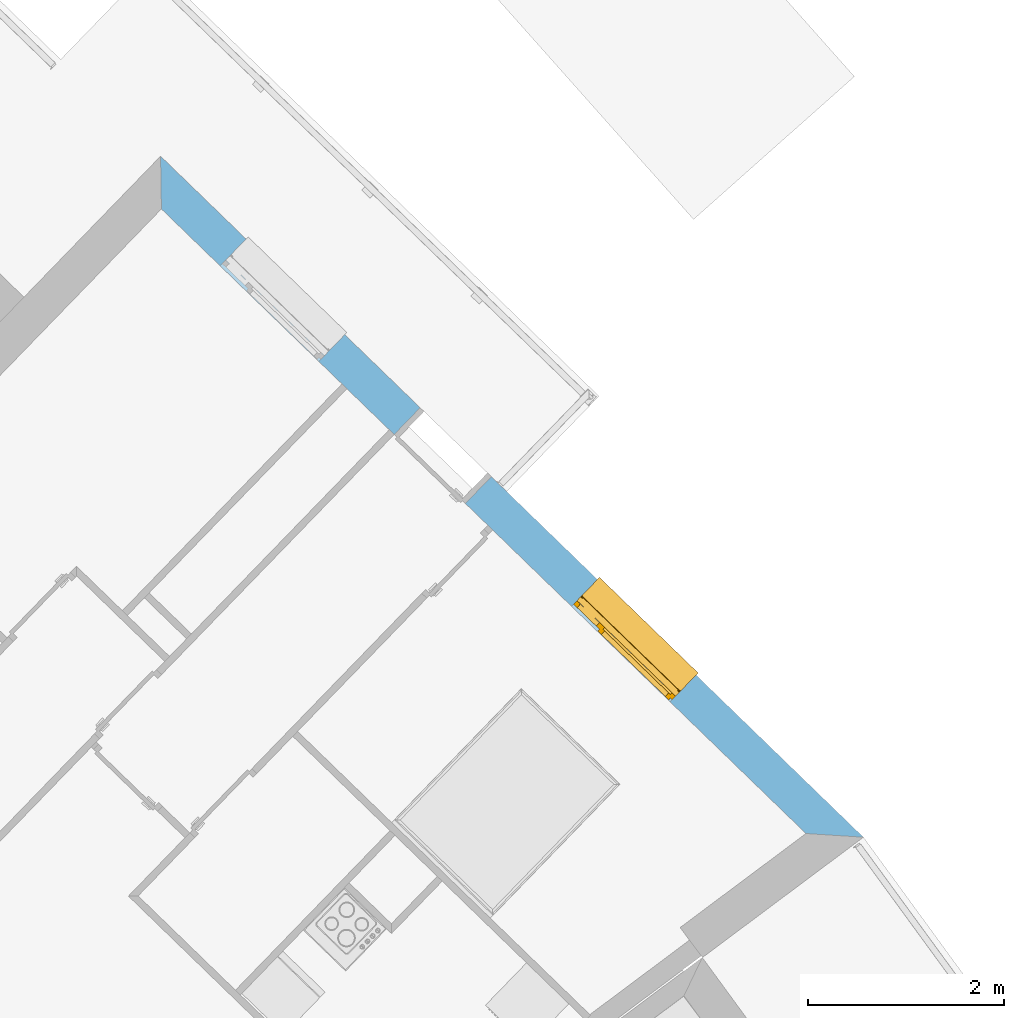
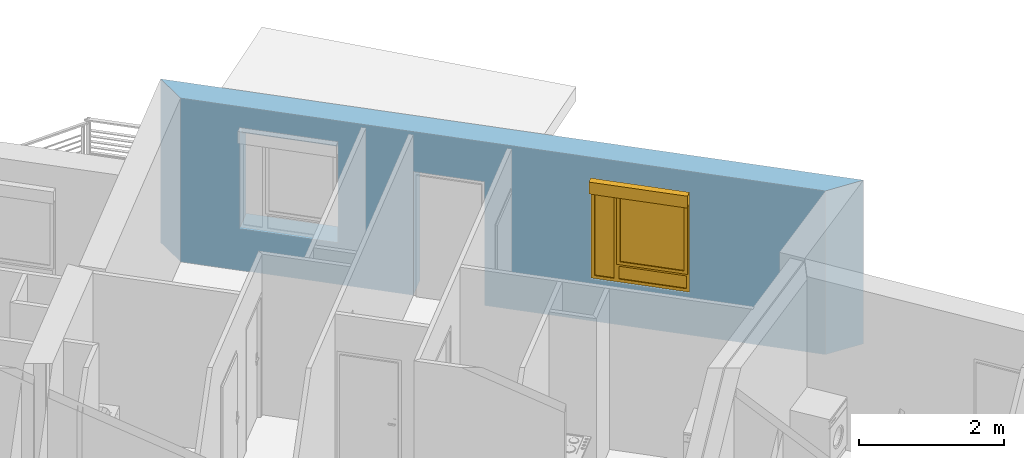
# One storey, part 22 of 121: 1 window, 3 openings, plus 1 element that does not belong to this part.
"""IFC2X3 building model written with IfcOpenShell, lengths in metres."""

from ifc_helpers import new_model, entity, si_unit, converted_unit, derived_unit, money_unit, direction, frame, origin_with_axes, origin_2d_with_axis, place, context, subcontext, project, spatial, polyline, rectangle, outline, extrude, open_shell, faceted_brep, surface_model, source, transform, mapped, material, layer, layer_set, layer_usage, type_object, element, fill, save


model = new_model("IFC2X3")

# Units and contexts
model_context = context("Model", 3, precision=1e-05, world=origin_with_axes(), true_north=direction((0.0, 1.0)))
body_context = subcontext(model_context, "Body", "Model", "MODEL_VIEW")
ifc_project = project(units=[si_unit("LENGTHUNIT", "METRE"), si_unit("AREAUNIT", "SQUARE_METRE"), si_unit("VOLUMEUNIT", "CUBIC_METRE"), converted_unit("PLANEANGLEUNIT", "DEGREE", entity("IfcPlaneAngleMeasure", 0.0174532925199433), si_unit("PLANEANGLEUNIT", "RADIAN"), dimensions=[0, 0, 0, 0, 0, 0, 0]), money_unit("CHF"), converted_unit("TIMEUNIT", "Year", entity("IfcTimeMeasure", 31557600.0), si_unit("TIMEUNIT", "SECOND"), dimensions=[0, 0, 1, 0, 0, 0, 0]), si_unit("MASSUNIT", "GRAM", prefix="KILO"), si_unit("THERMODYNAMICTEMPERATUREUNIT", "DEGREE_CELSIUS"), si_unit("LUMINOUSINTENSITYUNIT", "LUMEN"), si_unit("ENERGYUNIT", "JOULE", prefix="MEGA"), derived_unit("THERMALCONDUCTANCEUNIT", [(si_unit("POWERUNIT", "WATT"), 1), (si_unit("LENGTHUNIT", "METRE"), -1), (si_unit("THERMODYNAMICTEMPERATUREUNIT", "KELVIN"), -1)]), derived_unit("SPECIFICHEATCAPACITYUNIT", [(si_unit("ENERGYUNIT", "JOULE"), 1), (si_unit("MASSUNIT", "GRAM", prefix="KILO"), -1), (si_unit("THERMODYNAMICTEMPERATUREUNIT", "KELVIN"), -1)]), derived_unit("MASSDENSITYUNIT", [(si_unit("MASSUNIT", "GRAM", prefix="KILO"), 1), (si_unit("VOLUMEUNIT", "CUBIC_METRE"), -1)])], contexts=[model_context])

# Site, building, storey
site_placement = place(None, origin_with_axes())
site = spatial("IfcSite", under=ifc_project, at=site_placement, Name="Site", CompositionType="ELEMENT")
building_placement = place(site_placement, origin_with_axes())
building = spatial("IfcBuilding", under=site, at=building_placement, Name="Bâtiment", CompositionType="ELEMENT")
storey_placement = place(building_placement, frame((0.0, 0.0, 2.75), z_axis=(0.0, 0.0, 1.0), x_axis=(1.0, 0.0, 0.0)))
storey = spatial("IfcBuildingStorey", under=building, at=storey_placement, Name="Etage 1", CompositionType="ELEMENT", Elevation=2.75)

# Wall, openings, window
ifc_material_1 = material(Name="Parpaing 312445824")
ifc_layer_1 = layer(ifc_material_1, 0.22, ventilated="UNKNOWN")
ifc_material_2 = material(Name="Isolant styromousse 301821074")
ifc_layer_2 = layer(ifc_material_2, 0.16, ventilated="UNKNOWN")
ifc_layer_set = layer_set([ifc_layer_1, ifc_layer_2], Name="isol int 22+16 0836643197")
ifc_layer_usage = layer_usage(ifc_layer_set, "AXIS2", "NEGATIVE", 0.0)
wall_type = type_object("IfcWallType", Name="isol int 22+16 0836643197 380", PredefinedType="NOTDEFINED")
wall_placement = place(storey_placement, frame((9531.989867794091, -1061.560379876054, 57.7), z_axis=(0.0, 0.0, 1.0), x_axis=(0.7181763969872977, -0.6958610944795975, 0.0)))
wall = element("IfcWallStandardCase", 1, at=wall_placement, inside=storey, type_object=wall_type, material=ifc_layer_usage, Name="Mur-116", context=body_context, shape_type="SweptSolid", body=[
    extrude(outline(polyline([(0.3800000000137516, -0.3799999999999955), (9.524551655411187, -0.3800000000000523), (9.970619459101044, 0.0), (0.0, 0.0), (0.3800000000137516, -0.3799999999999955)])), origin_with_axes(), (0.0, 0.0, 1.0), 2.75),
])
opening_1_placement = place(wall_placement, frame((1.912836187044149, 0.0, 0.7000000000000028), z_axis=(0.0, 0.0, 1.0), x_axis=(1.0, 0.0, 0.0)))
element("IfcOpeningElement", 2, at=opening_1_placement, cuts=wall, Name="Fen-045", context=body_context, shape_type="Brep", body=[
    faceted_brep([(-0.7000000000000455, -0.2200000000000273, 1.5), (0.6999999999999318, -0.2200000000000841, 1.5), (0.6999999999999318, 4.983827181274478, 1.5), (-0.7000000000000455, 4.983827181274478, 1.5), (-0.7000000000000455, -0.2200000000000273, 1.700000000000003), (0.6999999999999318, -0.2200000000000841, 1.700000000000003), (0.6999999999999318, -0.3000000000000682, 1.5), (0.6999999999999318, -0.3000000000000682, 0.0), (0.6999999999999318, 4.983827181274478, 0.0), (-0.7000000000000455, 4.983827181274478, 0.0), (-0.7000000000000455, -0.3000000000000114, 1.5), (-0.7000000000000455, -0.3000000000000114, 0.0), (-0.7000000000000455, -0.4799999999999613, 1.5), (-0.7000000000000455, -0.4799999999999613, 1.700000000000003), (0.6999999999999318, -0.4800000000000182, 1.700000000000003), (0.6999999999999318, -0.4800000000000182, 1.5), (0.6999999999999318, -5.36382718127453, 1.5), (0.6999999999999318, -5.36382718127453, 0.0), (-0.7000000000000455, -5.363827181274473, 0.0), (-0.7000000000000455, -5.363827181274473, 1.5)], [[[0, 1, 2, 3]], [[1, 0, 4, 5]], [[1, 6, 7, 8, 2]], [[2, 8, 9, 3]], [[10, 0, 3, 9, 11]], [[0, 10, 12, 13, 4]], [[4, 13, 14, 5]], [[6, 1, 5, 14, 15]], [[6, 15, 16, 17, 7]], [[7, 11, 9, 8]], [[12, 10, 11, 18, 19]], [[12, 15, 14, 13]], [[15, 12, 19, 16]], [[19, 18, 17, 16]], [[11, 7, 17, 18]]]),
])
opening_2_placement = place(wall_placement, frame((4.187148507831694, 0.0, 0.0), z_axis=(0.0, 0.0, 1.0), x_axis=(1.0, 0.0, 0.0)))
element("IfcOpeningElement", 3, at=opening_2_placement, cuts=wall, Name="Por-297", context=body_context, shape_type="SweptSolid", body=[
    extrude(rectangle(XDim=1.01000001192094, YDim=2.079999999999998, at=origin_2d_with_axis()), frame((-5.960487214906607e-09, 0.3799999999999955, 1.039999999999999), z_axis=(0.0, -1.0, 0.0), x_axis=(-1.0, 0.0, 0.0)), (0.0, 0.0, 1.0), 0.76),
])
opening_3_placement = place(wall_placement, frame((6.896864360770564, 0.0, 0.7000000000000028), z_axis=(0.0, 0.0, 1.0), x_axis=(1.0, 0.0, 0.0)))
opening_3 = element("IfcOpeningElement", 4, at=opening_3_placement, cuts=wall, Name="Fen-045", context=body_context, shape_type="Brep", body=[
    faceted_brep([(-0.7000000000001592, -0.2200000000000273, 1.5), (0.6999999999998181, -0.2200000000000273, 1.5), (0.6999999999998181, 4.983827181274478, 1.5), (-0.7000000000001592, 4.983827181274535, 1.5), (-0.7000000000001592, -0.2200000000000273, 1.700000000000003), (0.6999999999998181, -0.2200000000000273, 1.700000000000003), (0.6999999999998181, -0.3000000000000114, 1.5), (0.6999999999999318, -0.3000000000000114, 0.0), (0.6999999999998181, 4.983827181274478, 0.0), (-0.7000000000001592, 4.983827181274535, 0.0), (-0.7000000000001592, -0.2999999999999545, 1.5), (-0.7000000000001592, -0.3000000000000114, 0.0), (-0.7000000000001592, -0.4799999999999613, 1.5), (-0.7000000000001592, -0.4799999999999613, 1.700000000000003), (0.6999999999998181, -0.4799999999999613, 1.700000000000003), (0.6999999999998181, -0.4799999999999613, 1.5), (0.6999999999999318, -5.36382718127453, 1.5), (0.6999999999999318, -5.36382718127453, 0.0), (-0.7000000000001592, -5.363827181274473, 0.0), (-0.7000000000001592, -5.363827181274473, 1.5)], [[[0, 1, 2, 3]], [[1, 0, 4, 5]], [[1, 6, 7, 8, 2]], [[2, 8, 9, 3]], [[10, 0, 3, 9, 11]], [[0, 10, 12, 13, 4]], [[4, 13, 14, 5]], [[6, 1, 5, 14, 15]], [[6, 15, 16, 17, 7]], [[7, 11, 9, 8]], [[12, 10, 11, 18, 19]], [[12, 15, 14, 13]], [[15, 12, 19, 16]], [[19, 18, 17, 16]], [[11, 7, 17, 18]]]),
])
window_style = type_object("IfcWindowStyle", Name="Fenêtre variable 27", ConstructionType="NOTDEFINED", OperationType="TRIPLE_PANEL_RIGHT", ParameterTakesPrecedence=False, Sizeable=False)
shared_shape = source(origin_with_axes(), body_context, "Body", "SurfaceModel", [
    surface_model("IfcShellBasedSurfaceModel", [(-0.7, -0.05100000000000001, 0.05), (-0.7, -0.05100000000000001, 0.04), (0.7, -0.05100000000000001, 0.04000000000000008), (0.7, -0.05100000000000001, 0.05000000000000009), (-0.7, -0.3799999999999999, 0.02899999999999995), (0.7, -0.3799999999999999, 0.02900000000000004), (-0.7, -0.3799999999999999, 0.008999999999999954), (0.7, -0.3799999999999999, 0.00900000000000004), (-0.7, -0.3699999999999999, 0.01899999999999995), (0.7, -0.3699999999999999, 0.01900000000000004)], [open_shell([[[0, 1, 2, 3]], [[1, 4, 5, 2]], [[4, 6, 7, 5]], [[6, 8, 9, 7]]])]),
    faceted_brep([(-0.7, -0.13, 1.7), (-0.697, -0.13, 1.7), (-0.697, 0.13, 1.7), (-0.7, 0.13, 1.7), (-0.7, -0.13, 1.5), (-0.697, -0.13, 1.5), (-0.697, 0.13, 1.5), (-0.7, 0.13, 1.5)], [[[0, 1, 2, 3]], [[4, 5, 1, 0]], [[1, 5, 6, 2]], [[3, 2, 6, 7]], [[0, 3, 7, 4]], [[7, 6, 5, 4]]]),
    faceted_brep([(0.6970000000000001, -0.1299999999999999, 1.7), (0.7000000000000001, -0.1299999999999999, 1.7), (0.7000000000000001, 0.1300000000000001, 1.7), (0.6970000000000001, 0.1300000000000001, 1.7), (0.6970000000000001, -0.1299999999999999, 1.5), (0.7000000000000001, -0.1299999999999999, 1.5), (0.7000000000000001, 0.1300000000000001, 1.5), (0.6970000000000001, 0.1300000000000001, 1.5)], [[[0, 1, 2, 3]], [[4, 5, 1, 0]], [[1, 5, 6, 2]], [[3, 2, 6, 7]], [[0, 3, 7, 4]], [[7, 6, 5, 4]]]),
    faceted_brep([(-0.697, -0.13, 1.5), (0.697, -0.1299999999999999, 1.5), (0.697, -0.1299999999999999, 1.7), (-0.697, -0.13, 1.7), (-0.697, -0.127, 1.5), (0.697, -0.1269999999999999, 1.5), (0.697, -0.1269999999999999, 1.697), (0.697, 0.1270000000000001, 1.697), (0.697, 0.1270000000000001, 1.503), (0.697, -0.1079999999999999, 1.503), (0.697, -0.1079999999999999, 1.5), (0.697, 0.1300000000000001, 1.5), (0.697, 0.1300000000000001, 1.7), (-0.697, 0.13, 1.7), (-0.697, 0.13, 1.5), (-0.697, -0.108, 1.5), (-0.697, -0.108, 1.503), (-0.697, 0.127, 1.503), (-0.697, 0.127, 1.697), (-0.697, -0.127, 1.697)], [[[0, 1, 2, 3]], [[4, 5, 1, 0]], [[1, 5, 6, 7, 8, 9, 10, 11, 12, 2]], [[3, 2, 12, 13]], [[0, 3, 13, 14, 15, 16, 17, 18, 19, 4]], [[19, 6, 5, 4]], [[18, 7, 6, 19]], [[17, 8, 7, 18]], [[16, 9, 8, 17]], [[15, 10, 9, 16]], [[14, 11, 10, 15]], [[13, 12, 11, 14]]]),
    faceted_brep([(-0.694, -0.08075423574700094, 1.585760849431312), (-0.694, -0.08200000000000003, 1.6), (-0.694, -0.0807542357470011, 1.614239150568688), (-0.694, -0.07705479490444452, 1.628045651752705), (-0.694, -0.07101408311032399, 1.641), (-0.694, -0.06281564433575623, 1.652708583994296), (-0.694, -0.05270858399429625, 1.662815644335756), (-0.694, -0.04100000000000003, 1.671014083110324), (-0.694, -0.02804565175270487, 1.677054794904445), (-0.694, -0.01423915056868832, 1.680754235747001), (-0.694, 0.0, 1.682), (-0.694, 0.01423915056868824, 1.680754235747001), (-0.694, 0.02804565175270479, 1.677054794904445), (-0.694, 0.04099999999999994, 1.671014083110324), (-0.694, 0.05270858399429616, 1.662815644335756), (-0.694, 0.06281564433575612, 1.652708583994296), (-0.694, 0.07101408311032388, 1.641), (-0.694, 0.0770547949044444, 1.628045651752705), (-0.694, 0.08075423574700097, 1.614239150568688), (-0.694, 0.0819999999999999, 1.6), (-0.694, 0.08075423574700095, 1.585760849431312), (-0.694, 0.07705479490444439, 1.571954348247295), (-0.694, 0.07101408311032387, 1.559), (-0.694, 0.06281564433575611, 1.547291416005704), (-0.694, 0.05270858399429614, 1.537184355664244), (-0.694, 0.04099999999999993, 1.528985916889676), (-0.694, 0.02804565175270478, 1.522945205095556), (-0.694, 0.01423915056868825, 1.519245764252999), (-0.694, 0.0, 1.518), (-0.694, -0.01423915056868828, 1.519245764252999), (-0.694, -0.02804565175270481, 1.522945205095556), (-0.694, -0.04099999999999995, 1.528985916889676), (-0.694, -0.05270858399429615, 1.537184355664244), (-0.694, -0.06281564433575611, 1.547291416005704), (-0.694, -0.07101408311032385, 1.559), (-0.694, -0.07705479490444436, 1.571954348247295), (0.694, -0.08075423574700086, 1.585760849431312), (0.694, -0.08199999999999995, 1.6), (0.694, -0.08075423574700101, 1.614239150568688), (0.694, -0.07705479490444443, 1.628045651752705), (0.694, -0.07101408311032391, 1.641), (0.694, -0.06281564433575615, 1.652708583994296), (0.694, -0.05270858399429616, 1.662815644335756), (0.694, -0.04099999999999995, 1.671014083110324), (0.694, -0.02804565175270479, 1.677054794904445), (0.694, -0.01423915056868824, 1.680754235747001), (0.694, 0.0, 1.682), (0.694, 0.01423915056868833, 1.680754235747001), (0.694, 0.02804565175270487, 1.677054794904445), (0.694, 0.04100000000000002, 1.671014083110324), (0.694, 0.05270858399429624, 1.662815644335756), (0.694, 0.0628156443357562, 1.652708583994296), (0.694, 0.07101408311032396, 1.641), (0.694, 0.07705479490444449, 1.628045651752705), (0.694, 0.08075423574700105, 1.614239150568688), (0.694, 0.08199999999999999, 1.6), (0.694, 0.08075423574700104, 1.585760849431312), (0.694, 0.07705479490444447, 1.571954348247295), (0.694, 0.07101408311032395, 1.559), (0.694, 0.06281564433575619, 1.547291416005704), (0.694, 0.05270858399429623, 1.537184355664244), (0.694, 0.04100000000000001, 1.528985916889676), (0.694, 0.02804565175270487, 1.522945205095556), (0.694, 0.01423915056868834, 1.519245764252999), (0.694, 0.0, 1.518), (0.694, -0.0142391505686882, 1.519245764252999), (0.694, -0.02804565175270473, 1.522945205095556), (0.694, -0.04099999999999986, 1.528985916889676), (0.694, -0.05270858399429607, 1.537184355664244), (0.694, -0.06281564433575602, 1.547291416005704), (0.694, -0.07101408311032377, 1.559), (0.694, -0.07705479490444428, 1.571954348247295)], [[[0, 1, 2, 3, 4, 5, 6, 7, 8, 9, 10, 11, 12, 13, 14, 15, 16, 17, 18, 19, 20, 21, 22, 23, 24, 25, 26, 27, 28, 29, 30, 31, 32, 33, 34, 35]], [[0, 36, 37, 1]], [[1, 37, 38, 2]], [[2, 38, 39, 3]], [[3, 39, 40, 4]], [[4, 40, 41, 5]], [[5, 41, 42, 6]], [[6, 42, 43, 7]], [[7, 43, 44, 8]], [[8, 44, 45, 9]], [[9, 45, 46, 10]], [[10, 46, 47, 11]], [[11, 47, 48, 12]], [[12, 48, 49, 13]], [[13, 49, 50, 14]], [[14, 50, 51, 15]], [[15, 51, 52, 16]], [[16, 52, 53, 17]], [[17, 53, 54, 18]], [[18, 54, 55, 19]], [[19, 55, 56, 20]], [[20, 56, 57, 21]], [[21, 57, 58, 22]], [[22, 58, 59, 23]], [[23, 59, 60, 24]], [[24, 60, 61, 25]], [[25, 61, 62, 26]], [[26, 62, 63, 27]], [[27, 63, 64, 28]], [[28, 64, 65, 29]], [[29, 65, 66, 30]], [[30, 66, 67, 31]], [[31, 67, 68, 32]], [[32, 68, 69, 33]], [[33, 69, 70, 34]], [[34, 70, 71, 35]], [[35, 71, 36, 0]], [[36, 71, 70, 69, 68, 67, 66, 65, 64, 63, 62, 61, 60, 59, 58, 57, 56, 55, 54, 53, 52, 51, 50, 49, 48, 47, 46, 45, 44, 43, 42, 41, 40, 39, 38, 37]]]),
    faceted_brep([(0.7, -0.105, 0.03), (0.7, -0.1049999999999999, 1.5), (0.7, -0.1299999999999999, 1.5), (0.7, -0.13, 0.03), (0.6749999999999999, -0.105, 0.03), (0.6749999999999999, -0.1049999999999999, 1.5), (0.6749999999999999, -0.1079999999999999, 1.5), (0.697, -0.1079999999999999, 1.5), (0.697, -0.1269999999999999, 1.5), (0.6749999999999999, -0.1269999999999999, 1.5), (0.6749999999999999, -0.1299999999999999, 1.5), (0.6749999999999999, -0.13, 0.03), (0.6749999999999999, -0.127, 0.03), (0.697, -0.127, 0.03), (0.697, -0.108, 0.03), (0.6749999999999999, -0.108, 0.03)], [[[0, 1, 2, 3]], [[4, 5, 1, 0]], [[1, 5, 6, 7, 8, 9, 10, 2]], [[3, 2, 10, 11]], [[0, 3, 11, 12, 13, 14, 15, 4]], [[15, 6, 5, 4]], [[14, 7, 6, 15]], [[13, 8, 7, 14]], [[12, 9, 8, 13]], [[11, 10, 9, 12]]]),
    faceted_brep([(-0.7, -0.105, 0.03), (-0.7, -0.13, 0.03), (-0.7, -0.1299999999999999, 1.5), (-0.7, -0.1049999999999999, 1.5), (-0.6749999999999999, -0.105, 0.03), (-0.6749999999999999, -0.108, 0.03), (-0.697, -0.108, 0.03), (-0.697, -0.127, 0.03), (-0.6749999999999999, -0.127, 0.03), (-0.6749999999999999, -0.13, 0.03), (-0.6749999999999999, -0.1299999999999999, 1.5), (-0.6749999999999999, -0.1269999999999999, 1.5), (-0.697, -0.1269999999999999, 1.5), (-0.697, -0.1079999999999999, 1.5), (-0.6749999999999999, -0.1079999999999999, 1.5), (-0.6749999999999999, -0.1049999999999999, 1.5)], [[[0, 1, 2, 3]], [[0, 4, 5, 6, 7, 8, 9, 1]], [[1, 9, 10, 2]], [[3, 2, 10, 11, 12, 13, 14, 15]], [[4, 0, 3, 15]], [[5, 4, 15, 14]], [[6, 5, 14, 13]], [[7, 6, 13, 12]], [[8, 7, 12, 11]], [[9, 8, 11, 10]]]),
    surface_model("IfcShellBasedSurfaceModel", [(-0.697, -0.115, 1.6), (0.697, -0.1149999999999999, 1.6), (0.697, -0.1199999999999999, 1.6), (-0.697, -0.12, 1.6), (-0.697, -0.115, 1.6), (-0.697, -0.12, 1.6), (0.697, -0.12, 1.6), (0.697, -0.1149999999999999, 1.6)], [open_shell([[[0, 1, 2, 3]], [[4, 5, 6, 7]]])]),
    faceted_brep([(-0.697, -0.115, 1.6), (0.697, -0.1149999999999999, 1.6), (0.697, -0.1166666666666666, 1.583333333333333), (-0.697, -0.1166666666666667, 1.583333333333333), (-0.697, -0.12, 1.6), (0.697, -0.1199999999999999, 1.6), (0.697, -0.1216666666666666, 1.583333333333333), (0.697, -0.1216666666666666, 1.566666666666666), (0.697, -0.1199999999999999, 1.55), (0.697, -0.1149999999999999, 1.55), (0.697, -0.1166666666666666, 1.566666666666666), (-0.697, -0.1166666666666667, 1.566666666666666), (-0.697, -0.115, 1.55), (-0.697, -0.12, 1.55), (-0.697, -0.1216666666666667, 1.566666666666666), (-0.697, -0.1216666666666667, 1.583333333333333)], [[[0, 1, 2, 3]], [[4, 5, 1, 0]], [[1, 5, 6, 7, 8, 9, 10, 2]], [[3, 2, 10, 11]], [[0, 3, 11, 12, 13, 14, 15, 4]], [[15, 6, 5, 4]], [[14, 7, 6, 15]], [[13, 8, 7, 14]], [[12, 9, 8, 13]], [[11, 10, 9, 12]]]),
    faceted_brep([(-0.697, -0.115, 1.55), (0.697, -0.1149999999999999, 1.55), (0.697, -0.1166666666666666, 1.533333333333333), (-0.697, -0.1166666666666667, 1.533333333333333), (-0.697, -0.12, 1.55), (0.697, -0.1199999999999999, 1.55), (0.697, -0.1216666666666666, 1.533333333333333), (0.697, -0.1216666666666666, 1.516666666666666), (0.697, -0.1199999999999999, 1.5), (0.697, -0.1149999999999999, 1.5), (0.697, -0.1166666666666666, 1.516666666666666), (-0.697, -0.1166666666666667, 1.516666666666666), (-0.697, -0.115, 1.5), (-0.697, -0.12, 1.5), (-0.697, -0.1216666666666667, 1.516666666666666), (-0.697, -0.1216666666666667, 1.533333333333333)], [[[0, 1, 2, 3]], [[4, 5, 1, 0]], [[1, 5, 6, 7, 8, 9, 10, 2]], [[3, 2, 10, 11]], [[0, 3, 11, 12, 13, 14, 15, 4]], [[15, 6, 5, 4]], [[14, 7, 6, 15]], [[13, 8, 7, 14]], [[12, 9, 8, 13]], [[11, 10, 9, 12]]]),
    faceted_brep([(-0.6749999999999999, 0.0, 1.45), (-0.7, 0.0, 1.45), (-0.7, -0.05000000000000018, 1.45), (-0.6499999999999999, -0.05000000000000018, 1.45), (-0.6499999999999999, -0.02500000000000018, 1.45), (-0.6749999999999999, -0.02500000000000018, 1.45), (-0.6749999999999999, 0.0, 0.3099999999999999), (-0.6499999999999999, 0.0, 0.3099999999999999), (-0.6499999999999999, 0.0, 0.265), (-0.6499999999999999, 0.0, 0.05000000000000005), (-0.7, 0.0, 0.05000000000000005), (-0.7, -0.05000000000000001, 0.05000000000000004), (-0.6499999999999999, -0.05000000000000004, 0.335), (-0.6499999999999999, -0.05000000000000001, 0.05000000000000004), (-0.6499999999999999, -0.05000000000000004, 0.265), (-0.6499999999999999, -0.02500000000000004, 0.335), (-0.6499999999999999, -0.02500000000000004, 0.3099999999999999), (-0.6749999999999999, -0.02500000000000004, 0.3099999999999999)], [[[0, 1, 2, 3, 4, 5]], [[6, 7, 8, 9, 10, 1, 0]], [[1, 10, 11, 2]], [[12, 3, 2, 11, 13, 14]], [[4, 3, 12, 15]], [[15, 16, 17, 5, 4]], [[5, 17, 6, 0]], [[6, 17, 16, 7]], [[16, 15, 12, 14, 8, 7]], [[9, 8, 14, 13]], [[10, 9, 13, 11]]]),
    faceted_brep([(0.3068894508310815, -0.02500000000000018, 1.45), (0.3068894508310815, -0.05000000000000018, 1.45), (0.3768894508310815, -0.05000000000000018, 1.45), (0.3768894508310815, 0.0, 1.45), (0.3318894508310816, 0.0, 1.45), (0.3318894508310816, -0.02500000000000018, 1.45), (0.3068894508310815, -0.02500000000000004, 0.335), (0.3068894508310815, -0.05000000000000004, 0.335), (0.3068894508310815, -0.05000000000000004, 0.265), (0.3068894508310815, -0.05000000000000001, 0.05000000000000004), (0.3768894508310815, -0.05000000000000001, 0.05000000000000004), (0.3768894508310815, 0.0, 0.05000000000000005), (0.3318894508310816, 0.0, 0.3099999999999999), (0.3068894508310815, 0.0, 0.05000000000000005), (0.3068894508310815, 0.0, 0.265), (0.3068894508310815, 0.0, 0.3099999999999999), (0.3318894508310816, -0.02500000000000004, 0.3099999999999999), (0.3068894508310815, -0.02500000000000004, 0.3099999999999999)], [[[0, 1, 2, 3, 4, 5]], [[6, 7, 1, 0]], [[8, 9, 10, 2, 1, 7]], [[11, 3, 2, 10]], [[12, 4, 3, 11, 13, 14, 15]], [[12, 16, 5, 4]], [[5, 16, 17, 6, 0]], [[17, 15, 14, 8, 7, 6]], [[14, 13, 9, 8]], [[13, 11, 10, 9]], [[15, 17, 16, 12]]]),
    faceted_brep([(-0.6499999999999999, -0.02500000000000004, 0.335), (-0.6499999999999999, -0.05000000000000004, 0.335), (0.3068894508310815, -0.05000000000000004, 0.335), (0.3068894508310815, -0.02500000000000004, 0.335), (-0.6499999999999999, -0.02500000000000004, 0.3099999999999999), (-0.6499999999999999, 0.0, 0.3099999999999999), (-0.6499999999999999, 0.0, 0.265), (-0.6499999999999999, -0.05000000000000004, 0.265), (0.3068894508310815, -0.05000000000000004, 0.265), (0.3068894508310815, -0.02500000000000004, 0.3099999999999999), (0.3068894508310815, 0.0, 0.265), (0.3068894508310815, 0.0, 0.3099999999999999)], [[[0, 1, 2, 3]], [[4, 5, 6, 7, 1, 0]], [[2, 1, 7, 8]], [[9, 3, 2, 8, 10, 11]], [[9, 4, 0, 3]], [[5, 4, 9, 11]], [[11, 10, 6, 5]], [[6, 10, 8, 7]]]),
    faceted_brep([(-0.6749999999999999, 0.0, 1.45), (-0.7, 0.0, 1.45), (-0.7, 0.0, 1.5), (0.7, 0.0, 1.5), (0.7, 0.0, 1.45), (0.6499999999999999, 0.0, 1.45), (0.3768894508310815, 0.0, 1.45), (0.3318894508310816, 0.0, 1.45), (0.3318894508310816, 0.0, 1.475), (-0.6749999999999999, 0.0, 1.475), (-0.6749999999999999, -0.02500000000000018, 1.45), (-0.6499999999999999, -0.02500000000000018, 1.45), (-0.6499999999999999, -0.05000000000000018, 1.45), (-0.7, -0.05000000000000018, 1.45), (-0.7, -0.05000000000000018, 1.5), (0.7, -0.05000000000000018, 1.5), (0.7, -0.05000000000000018, 1.45), (0.6499999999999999, -0.05000000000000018, 1.45), (0.3768894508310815, -0.05000000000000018, 1.45), (0.3318894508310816, -0.02500000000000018, 1.45), (0.3068894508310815, -0.05000000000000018, 1.45), (0.3068894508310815, -0.02500000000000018, 1.45), (0.3318894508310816, -0.02500000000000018, 1.475), (-0.6749999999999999, -0.02500000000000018, 1.475)], [[[0, 1, 2, 3, 4, 5, 6, 7, 8, 9]], [[10, 11, 12, 13, 1, 0]], [[2, 1, 13, 14]], [[3, 2, 14, 15]], [[4, 3, 15, 16]], [[5, 4, 16, 17]], [[6, 5, 17, 18]], [[19, 7, 6, 18, 20, 21]], [[7, 19, 22, 8]], [[8, 22, 23, 9]], [[9, 23, 10, 0]], [[21, 11, 10, 23, 22, 19]], [[21, 20, 12, 11]], [[18, 17, 16, 15, 14, 13, 12, 20]]]),
    faceted_brep([(0.6499999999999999, -0.05000000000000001, 0.05), (0.6499999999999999, 0.0, 0.05000000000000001), (0.7, 0.0, 0.05000000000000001), (0.7, -0.05000000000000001, 0.05), (0.6499999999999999, -0.05000000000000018, 1.45), (0.6499999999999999, 0.0, 1.45), (0.7, 0.0, 1.45), (0.7, -0.05000000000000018, 1.45)], [[[0, 1, 2, 3]], [[4, 5, 1, 0]], [[1, 5, 6, 2]], [[3, 2, 6, 7]], [[0, 3, 7, 4]], [[7, 6, 5, 4]]]),
    faceted_brep([(-0.6499999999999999, -0.05000000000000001, 0.05), (-0.6499999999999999, 0.0, 0.05000000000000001), (-0.7, 0.0, 0.05000000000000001), (-0.7, -0.05000000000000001, 0.05), (0.3068894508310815, -0.05000000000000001, 0.05), (0.3068894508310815, 0.0, 0.05000000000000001), (0.3768894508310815, 0.0, 0.05000000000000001), (0.6499999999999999, 0.0, 0.05000000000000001), (0.7, 0.0, 0.05000000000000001), (0.7, 0.0, 0.0), (-0.7, 0.0, 0.0), (-0.7, -0.05, 0.0), (0.7, -0.05, 0.0), (0.7, -0.05000000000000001, 0.05), (0.6499999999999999, -0.05000000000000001, 0.05), (0.3768894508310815, -0.05000000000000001, 0.05)], [[[0, 1, 2, 3]], [[4, 5, 1, 0]], [[1, 5, 6, 7, 8, 9, 10, 2]], [[3, 2, 10, 11]], [[0, 3, 11, 12, 13, 14, 15, 4]], [[15, 6, 5, 4]], [[14, 7, 6, 15]], [[13, 8, 7, 14]], [[12, 9, 8, 13]], [[11, 10, 9, 12]]]),
    faceted_brep([(-0.625, -0.02500000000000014, 1.425), (-0.625, 0.02499999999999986, 1.425), (-0.6749999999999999, 0.02499999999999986, 1.425), (-0.6749999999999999, -0.02500000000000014, 1.425), (-0.625, -0.02500000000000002, 0.3599999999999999), (-0.625, 0.02499999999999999, 0.3599999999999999), (-0.6749999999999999, 0.02499999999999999, 0.3599999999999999), (-0.6749999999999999, -0.02500000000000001, 0.3599999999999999)], [[[0, 1, 2, 3]], [[4, 5, 1, 0]], [[1, 5, 6, 2]], [[3, 2, 6, 7]], [[0, 3, 7, 4]], [[7, 6, 5, 4]]]),
    faceted_brep([(0.2818894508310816, -0.02500000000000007, 0.3599999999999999), (0.2818894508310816, 0.02499999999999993, 0.3599999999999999), (0.3318894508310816, 0.02499999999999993, 0.3599999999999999), (0.3318894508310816, -0.02500000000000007, 0.3599999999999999), (0.2818894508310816, -0.0250000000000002, 1.425), (0.2818894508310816, 0.0249999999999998, 1.425), (0.3318894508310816, 0.0249999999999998, 1.425), (0.3318894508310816, -0.0250000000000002, 1.425)], [[[0, 1, 2, 3]], [[4, 5, 1, 0]], [[1, 5, 6, 2]], [[3, 2, 6, 7]], [[0, 3, 7, 4]], [[7, 6, 5, 4]]]),
    faceted_brep([(0.3318894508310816, -0.02500000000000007, 0.3099999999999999), (0.3318894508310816, 0.02499999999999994, 0.3099999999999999), (0.3318894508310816, 0.02499999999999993, 0.3599999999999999), (0.3318894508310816, -0.02500000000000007, 0.3599999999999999), (-0.6749999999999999, -0.025, 0.3099999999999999), (-0.6749999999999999, 0.02499999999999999, 0.3099999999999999), (-0.6749999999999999, 0.02499999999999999, 0.3599999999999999), (-0.625, 0.02499999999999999, 0.3599999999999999), (0.2818894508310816, 0.02499999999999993, 0.3599999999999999), (0.2818894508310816, -0.02500000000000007, 0.3599999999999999), (-0.625, -0.02500000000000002, 0.3599999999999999), (-0.6749999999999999, -0.02500000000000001, 0.3599999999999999)], [[[0, 1, 2, 3]], [[4, 5, 1, 0]], [[1, 5, 6, 7, 8, 2]], [[3, 2, 8, 9]], [[0, 3, 9, 10, 11, 4]], [[11, 6, 5, 4]], [[10, 7, 6, 11]], [[9, 8, 7, 10]]]),
    faceted_brep([(-0.6749999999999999, -0.02500000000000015, 1.475), (-0.6749999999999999, 0.02499999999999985, 1.475), (-0.6749999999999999, 0.02499999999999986, 1.425), (-0.6749999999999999, -0.02500000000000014, 1.425), (0.3318894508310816, -0.02500000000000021, 1.475), (0.3318894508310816, 0.02499999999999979, 1.475), (0.3318894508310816, 0.0249999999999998, 1.425), (0.2818894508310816, 0.0249999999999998, 1.425), (-0.625, 0.02499999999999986, 1.425), (-0.625, -0.02500000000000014, 1.425), (0.2818894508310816, -0.0250000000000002, 1.425), (0.3318894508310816, -0.0250000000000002, 1.425)], [[[0, 1, 2, 3]], [[4, 5, 1, 0]], [[1, 5, 6, 7, 8, 2]], [[3, 2, 8, 9]], [[0, 3, 9, 10, 11, 4]], [[11, 6, 5, 4]], [[10, 7, 6, 11]], [[9, 8, 7, 10]]]),
    surface_model("IfcShellBasedSurfaceModel", [(-0.625, -0.01000000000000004, 0.3599999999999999), (0.2818894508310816, -0.01000000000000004, 0.3599999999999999), (0.2818894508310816, -0.01000000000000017, 1.425), (-0.625, -0.01000000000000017, 1.425)], [open_shell([[[0, 1, 2, 3]]])]),
    surface_model("IfcShellBasedSurfaceModel", [(-0.625, 0.009999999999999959, 0.3599999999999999), (-0.625, 0.00999999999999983, 1.425), (0.2818894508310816, 0.00999999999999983, 1.425), (0.2818894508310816, 0.009999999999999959, 0.3599999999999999)], [open_shell([[[0, 1, 2, 3]]])]),
    surface_model("IfcShellBasedSurfaceModel", [(0.3768894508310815, -0.035, 0.05), (0.65, -0.035, 0.05), (0.65, -0.03500000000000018, 1.45), (0.3768894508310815, -0.03500000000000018, 1.45)], [open_shell([[[0, 1, 2, 3]]])]),
    surface_model("IfcShellBasedSurfaceModel", [(0.3768894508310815, -0.015, 0.05), (0.3768894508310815, -0.01500000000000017, 1.45), (0.65, -0.01500000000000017, 1.45), (0.65, -0.015, 0.05)], [open_shell([[[0, 1, 2, 3]]])]),
    surface_model("IfcShellBasedSurfaceModel", [(-0.6499999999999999, -0.035, 0.05), (0.3068894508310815, -0.035, 0.05), (0.3068894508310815, -0.03500000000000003, 0.265), (-0.6499999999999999, -0.03500000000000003, 0.265)], [open_shell([[[0, 1, 2, 3]]])]),
    surface_model("IfcShellBasedSurfaceModel", [(-0.6499999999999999, -0.015, 0.05), (-0.6499999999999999, -0.01500000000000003, 0.265), (0.3068894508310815, -0.01500000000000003, 0.265), (0.3068894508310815, -0.015, 0.05)], [open_shell([[[0, 1, 2, 3]]])]),
])
window_placement = place(opening_3_placement, frame((0.6999999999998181, 0.0, 0.0), z_axis=(0.0, 0.0, 1.0), x_axis=(-1.0, 0.0, 0.0)))
window = element("IfcWindow", 5, at=window_placement, inside=storey, type_object=window_style, Name="Fen-045", OverallHeight=1.5, OverallWidth=1.4, context=body_context, shape_type="MappedRepresentation", body=[
    mapped(shared_shape, transform((0.7000000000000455, 0.3500000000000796, 0.0))),
])
fill(opening_3, window)

save(model, "model.ifc")
